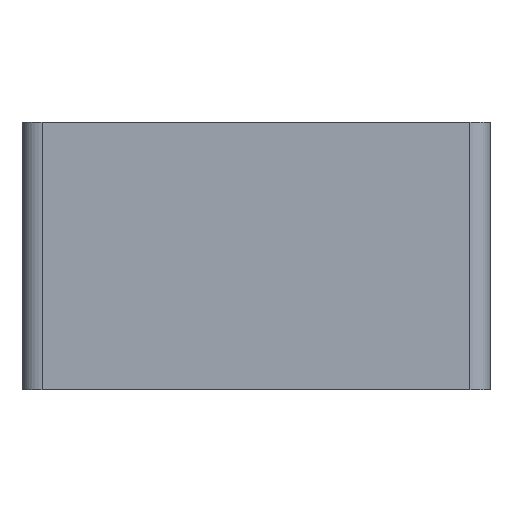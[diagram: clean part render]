
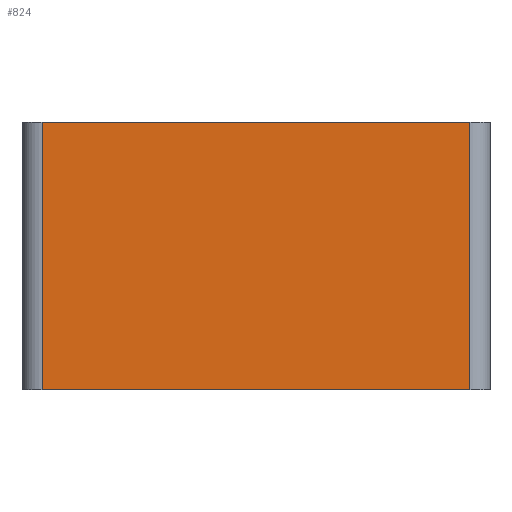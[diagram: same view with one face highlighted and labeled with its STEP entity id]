
A CAD part, front view. The second image highlights one B-rep face of the part: STEP entity #824.
In plain terms, the highlighted planar face has unit normal (0, -1, 0).
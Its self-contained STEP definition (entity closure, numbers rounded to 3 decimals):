
#473=ORIENTED_EDGE('',*,*,#591,.F.);
#474=ORIENTED_EDGE('',*,*,#582,.F.);
#475=ORIENTED_EDGE('',*,*,#590,.T.);
#476=ORIENTED_EDGE('',*,*,#567,.F.);
#491=VECTOR('',#641,1.);
#499=VECTOR('',#667,1.);
#506=VECTOR('',#688,1.);
#507=VECTOR('',#691,1.);
#515=LINE('',#724,#491);
#523=LINE('',#754,#499);
#530=LINE('',#769,#506);
#531=LINE('',#771,#507);
#541=VERTEX_POINT('',#721);
#542=VERTEX_POINT('',#723);
#554=VERTEX_POINT('',#751);
#555=VERTEX_POINT('',#753);
#567=EDGE_CURVE('',#541,#542,#515,.T.);
#582=EDGE_CURVE('',#554,#555,#523,.T.);
#590=EDGE_CURVE('',#554,#542,#530,.T.);
#591=EDGE_CURVE('',#555,#541,#531,.T.);
#604=EDGE_LOOP('',(#473,#474,#475,#476));
#618=FACE_BOUND('',#604,.T.);
#641=DIRECTION('',(64.,0.,0.));
#667=DIRECTION('',(-64.,0.,0.));
#688=DIRECTION('',(0.,0.,40.));
#689=DIRECTION('',(0.,-1.,0.));
#690=DIRECTION('',(-1.,0.,0.));
#691=DIRECTION('',(0.,0.,40.));
#721=CARTESIAN_POINT('',(5925.004,12951.36,40.));
#723=CARTESIAN_POINT('',(5989.003,12951.36,40.));
#724=CARTESIAN_POINT('',(5925.004,12951.36,40.));
#751=CARTESIAN_POINT('',(5989.003,12951.36,0.));
#753=CARTESIAN_POINT('',(5925.004,12951.36,0.));
#754=CARTESIAN_POINT('',(5989.003,12951.36,0.));
#769=CARTESIAN_POINT('',(5989.003,12951.36,0.));
#770=CARTESIAN_POINT('',(5989.003,12951.36,0.));
#771=CARTESIAN_POINT('',(5925.004,12951.36,0.));
#800=AXIS2_PLACEMENT_3D('',#770,#689,#690);
#811=PLANE('',#800);
#824=ADVANCED_FACE('',(#618),#811,.T.);
